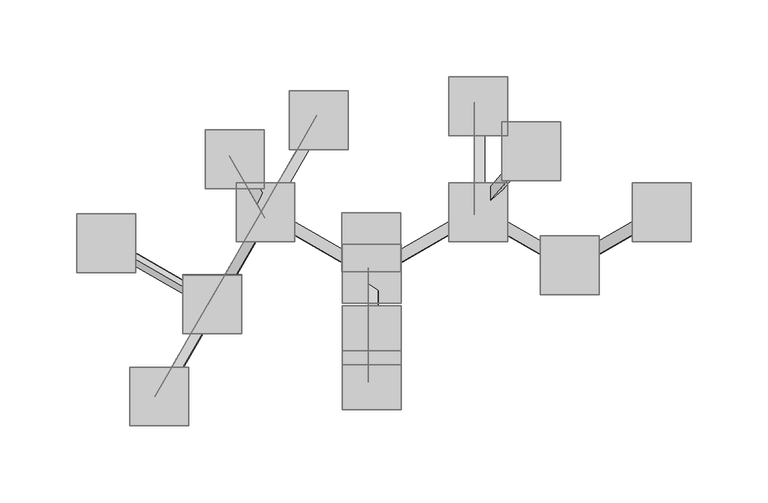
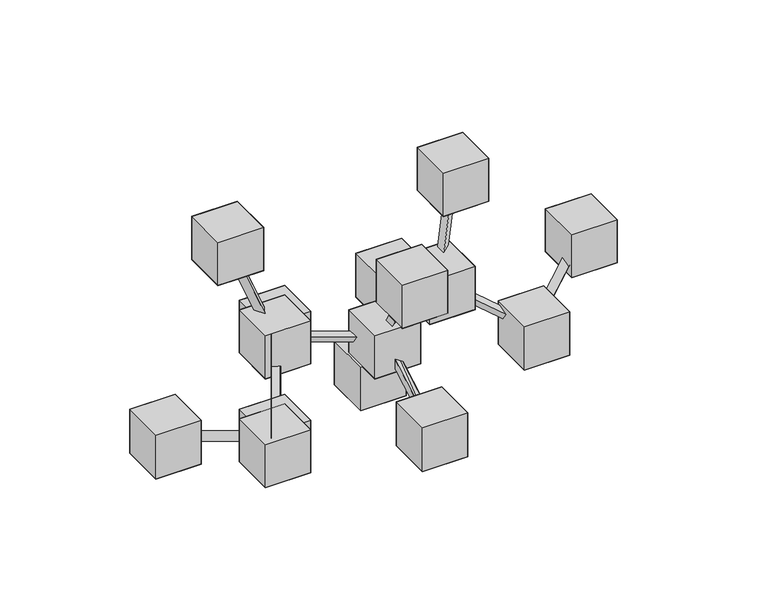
"""IFC4 building model written with IfcOpenShell, lengths in millimetres: geographic element geometry, Enscape AssetDefinition - Decorative Goods 023 Molecular Model : Enscape AssetDefinition - Decorative Goods 023 Molecular Model."""

from ifc_helpers import new_model, si_unit, origin, place, context, project, spatial, triangles, source, transform, mapped, element, save


def geographic_element_7906075b(model_context):
    return source(origin(), model_context, "Body", "Tessellation", [
        triangles([(54.2059982, 38.7270012, 79.2090006), (54.2059982, 0.309, 40.7910013), (54.2059982, 38.7270012, 40.7910013), (54.2059982, 0.309, 79.2090006), (92.6239975, 38.7270012, 79.2090006), (92.6239975, 38.7270012, 40.7910013), (92.6239975, 0.309, 40.7910013), (92.6239975, 0.309, 79.2090006), (190.1760009, 22.9079994, 61.623001), (135.0479977, -13.4199998, 15.7769996), (134.074002, -18.4830004, 21.6230011), (195.0479964, 21.2209998, 55.7770006), (194.0740006, 16.1579992, 61.623001), (130.1759932, -11.7330002, 21.6230011), (5.93, -16.6240001, 62.2499976), (3.9809999, -19.9989996, 55.5000008), (-65.3010014, 20.0010003, 55.5000008), (-67.249002, 16.6260007, 62.2499976), (-63.3520015, 23.3759987, 62.2499976), (2.0330001, -23.3740002, 62.2499976), (71.3149966, 23.3759987, 62.2499976), (73.2629972, 20.0010003, 55.5000008), (2.0330001, -16.6240001, 62.2499976), (5.93, -23.3740002, 62.2499976), (75.2120016, 16.6260007, 62.2499976), (131.1350008, -13.4110001, 15.7869997), (71.2990001, 21.1349995, 56.1139986), (76.1940047, 22.8090002, 61.9429987), (72.2969997, 16.059, 61.9429987), (132.1330049, -18.4870007, 21.6170013), (136.0300054, -11.7370005, 21.6170013), (1.731, -56.624001, 131.2309978), (8.4809997, -19.9989996, 59.9999986), (1.731, -91.2299965, 23.3750017), (8.4809997, -89.2809966, 19.9999988), (1.731, -18.0499997, 56.6250003), (1.731, -16.6240001, 61.9489985), (8.4809997, -59.9989994, 129.2819979), (1.731, -63.3739978, 127.3329981), (1.731, -23.3740002, 58.0510033), (1.731, -87.3320058, 16.6250004), (1.731, -21.9470002, 63.3750016), (-68.9370031, 21.799001, 58.0510033), (-61.4040009, 22.2510015, 59.9999986), (-81.4039974, 56.8919989, 129.2819979), (-85.5620012, 50.5940003, 131.2309978), (-88.9369951, 56.4400006, 127.3329981), (-65.5620002, 15.9530006, 61.9489985), (-68.223997, 19.4390001, 63.3750016), (-102.8650058, -40.5610008, 23.3750017), (-66.2750017, 22.8140008, 56.6250003), (-61.4040009, 17.7510013, 59.9999986), (-33.5829996, 79.4390011, 16.6250004), (-66.2750017, 22.8140008, 63.3750016), (-100.9159968, -37.1860001, 16.6250004), (-100.9159968, -37.1860001, 23.3750017), (-130.6860002, -102.2490005, 59.9999986), (-96.0450005, -42.2490018, 19.9999988), (-102.8650058, -40.5610008, 16.6250004), (-137.5059963, -100.5610039, 56.6250003), (-135.5569965, -97.186001, 63.3750016), (-26.762999, 77.7510045, 19.9999988), (-31.6339998, 82.814004, 23.3750017), (-68.223997, 19.4390001, 56.6250003), (-167.2750005, 3.3760002, 17.750001), (-99.942001, -39.9990029, 24.4999989), (-171.172001, -3.374, 17.750001), (-97.9930012, -36.624, 17.750001), (-169.2239913, 0.001, 24.4999989), (-101.8900017, -43.3739968, 17.750001), (71.0130028, 87.3349944, 16.6250004), (77.7629951, 20.0010003, 59.9999986), (71.0130028, 21.9500001, 63.3750016), (77.7629951, 89.282995, 19.9999988), (71.0130028, 18.0520004, 56.6250003), (71.0130028, 91.232004, 23.3750017), (104.9810012, 63.3760008, 119.4370048), (77.1599977, 20.0010003, 57.7499997), (72.2889969, 16.6260007, 62.812), (70.3400016, 23.3759987, 59.436997), (106.9300011, 56.6259995, 122.8119986), (111.8009974, 60.0010024, 117.7499984), (-15.3420005, -19.2089997, 0.0), (23.0770003, -19.2089997, 0.0), (-15.3420005, -19.2089997, 38.8739989), (-15.3420005, 19.2089997, 38.8739989), (23.0770003, 19.2089997, 38.8739989), (-15.3420005, 19.2089997, 0.0), (23.0770003, 19.2089997, 0.0), (23.0770003, -19.2089997, 38.8739989), (-15.076, -108.9729996, 0.0), (23.3420005, -108.9729996, 0.0), (-15.076, -108.9729996, 39.209003), (-15.076, -70.5550003, 39.209003), (-15.076, -70.5550003, 0.0), (23.3420005, -70.5550003, 0.0), (23.3420005, -108.9729996, 39.209003), (23.3420005, -70.5550003, 39.209003), (-153.6400043, -119.6909954, 40.7910013), (-153.6400043, -81.2730007, 79.2090006), (-115.2220004, -119.6909954, 40.7910013), (-153.6400043, -119.6909954, 79.2090006), (-115.2220004, -119.6909954, 79.2090006), (-153.6400043, -81.2730007, 40.7910013), (-115.2220004, -81.2730007, 40.7910013), (-115.2220004, -81.2730007, 79.2090006), (-188.2810039, -19.6909992, 39.209003), (-188.2810039, 18.7279993, 39.209003), (-188.2810039, -19.6909992, 0.0), (-149.8630091, 18.7279993, 39.209003), (-188.2810039, 18.7279993, 0.0), (-149.8630091, 18.7279993, 0.0), (-149.8630091, -19.6909992, 0.0), (-149.8630091, -19.6909992, 39.209003), (-118.9989955, -59.6910013, 0.0), (-118.9989955, -21.2729998, 39.209003), (-118.9989955, -59.6910013, 39.209003), (-118.9989955, -21.2729998, 0.0), (-80.5810008, -59.6910013, 0.0), (-80.5810008, -59.6910013, 39.209003), (-80.5810008, -21.2729998, 0.0), (-80.5810008, -21.2729998, 39.209003), (-104.3580015, 34.9499992, 110.072996), (-65.9400022, 34.9499992, 110.072996), (-104.3580015, 73.3679963, 148.4909908), (-104.3580015, 34.9499992, 148.4909908), (-104.3580015, 73.3679963, 110.072996), (-65.9400022, 73.3679963, 148.4909908), (-65.9400022, 34.9499992, 148.4909908), (-65.9400022, 73.3679963, 110.072996), (-84.3579959, 0.309, 40.7910013), (-45.9400011, 0.309, 40.7910013), (-45.9400011, 0.309, 79.2090006), (-84.3579959, 38.7270012, 79.2090006), (-84.3579959, 0.309, 79.2090006), (-45.9400011, 38.7270012, 79.2090006), (-84.3579959, 38.7270012, 40.7910013), (-45.9400011, 38.7270012, 40.7910013), (-49.7170008, 60.3090005, 0.0), (-49.7170008, 98.7280035, 39.209003), (-11.2990003, 98.7280035, 39.209003), (-49.7170008, 60.3090005, 39.209003), (-11.2990003, 98.7280035, 0.0), (-49.7170008, 98.7280035, 0.0), (-11.2990003, 60.3090005, 0.0), (-11.2990003, 60.3090005, 39.209003), (-15.076, -79.6910024, 110.072996), (-15.076, -79.6910024, 148.4909908), (-15.076, -41.2730031, 110.072996), (-15.076, -41.2730031, 148.4909908), (23.3420005, -79.6910024, 148.4909908), (23.3420005, -79.6910024, 110.072996), (23.3420005, -41.2730031, 110.072996), (23.3420005, -41.2730031, 148.4909908), (-15.076, -1.273, 40.7910013), (-15.076, -39.6910003, 40.7910013), (-15.076, -39.6910003, 79.2090006), (-15.076, -1.273, 79.2090006), (23.3420005, -1.273, 79.2090006), (23.3420005, -1.273, 40.7910013), (23.3420005, -39.6910003, 40.7910013), (23.3420005, -39.6910003, 79.2090006), (88.8469933, 40.3089994, 139.2089992), (88.8469933, 78.7279979, 100.7909954), (127.2650062, 40.3089994, 100.7909954), (88.8469933, 40.3089994, 100.7909954), (88.8469933, 78.7279979, 139.2089992), (127.2650062, 78.7279979, 139.2089992), (127.2650062, 78.7279979, 100.7909954), (127.2650062, 40.3089994, 139.2089992), (54.2059982, 69.5910012, 39.209003), (54.2059982, 69.5910012, 0.0), (92.6239975, 69.5910012, 0.0), (54.2059982, 108.009005, 39.209003), (54.2059982, 108.009005, 0.0), (92.6239975, 108.009005, 0.0), (92.6239975, 69.5910012, 39.209003), (92.6239975, 108.009005, 39.209003), (174.041993, 38.821999, 78.883003), (174.041993, 0.404, 78.883003), (174.041993, 0.404, 40.4649992), (212.4599968, 0.404, 78.883003), (174.041993, 38.821999, 40.4649992), (212.4599968, 38.821999, 78.883003), (212.4599968, 0.404, 40.4649992), (212.4599968, 38.821999, 40.4649992), (114.0420034, 4.1809999, 38.8830009), (114.0420034, -34.237, 38.8830009), (114.0420034, -34.237, 0.0), (152.4599891, -34.237, 0.0), (152.4599891, 4.1809999, 38.8830009), (152.4599891, 4.1809999, 0.0), (114.0420034, 4.1809999, 0.0), (152.4599891, -34.237, 38.8830009)], [[192, 191, 194], [192, 194, 190], [193, 192, 190], [193, 191, 192], [193, 187, 191], [191, 188, 194], [191, 187, 188], [190, 194, 188], [193, 190, 189], [190, 188, 189], [189, 187, 193], [189, 188, 187], [186, 184, 182], [186, 182, 185], [183, 186, 185], [183, 184, 186], [183, 179, 184], [184, 180, 182], [184, 179, 180], [185, 182, 180], [183, 185, 181], [185, 180, 181], [181, 179, 183], [181, 180, 179], [176, 178, 177], [176, 177, 173], [175, 176, 173], [175, 178, 176], [175, 174, 178], [178, 171, 177], [178, 174, 171], [173, 177, 171], [175, 173, 172], [173, 171, 172], [172, 174, 175], [172, 171, 174], [169, 168, 170], [169, 170, 165], [164, 169, 165], [164, 168, 169], [164, 167, 168], [168, 163, 170], [168, 167, 163], [165, 170, 163], [164, 165, 166], [165, 163, 166], [166, 167, 164], [166, 163, 167], [160, 159, 162], [160, 162, 161], [155, 160, 161], [155, 159, 160], [155, 158, 159], [159, 157, 162], [159, 158, 157], [161, 162, 157], [155, 161, 156], [161, 157, 156], [156, 158, 155], [156, 157, 158], [153, 154, 151], [153, 151, 152], [149, 153, 152], [149, 154, 153], [149, 150, 154], [154, 148, 151], [154, 150, 148], [152, 151, 148], [149, 152, 147], [152, 148, 147], [147, 150, 149], [147, 148, 150], [143, 141, 146], [143, 146, 145], [144, 143, 145], [144, 141, 143], [144, 140, 141], [141, 142, 146], [141, 140, 142], [145, 146, 142], [144, 145, 139], [145, 142, 139], [139, 140, 144], [139, 142, 140], [138, 136, 133], [138, 133, 132], [137, 138, 132], [137, 136, 138], [137, 134, 136], [136, 135, 133], [136, 134, 135], [132, 133, 135], [137, 132, 131], [132, 135, 131], [131, 134, 137], [131, 135, 134], [130, 128, 129], [130, 129, 124], [127, 130, 124], [127, 128, 130], [127, 125, 128], [128, 126, 129], [128, 125, 126], [124, 129, 126], [127, 124, 123], [124, 126, 123], [123, 125, 127], [123, 126, 125], [121, 122, 120], [121, 120, 119], [118, 121, 119], [118, 122, 121], [118, 116, 122], [122, 117, 120], [122, 116, 117], [119, 120, 117], [118, 119, 115], [119, 117, 115], [115, 116, 118], [115, 117, 116], [112, 110, 114], [112, 114, 113], [111, 112, 113], [111, 110, 112], [111, 108, 110], [110, 107, 114], [110, 108, 107], [113, 114, 107], [111, 113, 109], [113, 107, 109], [109, 108, 111], [109, 107, 108], [105, 106, 103], [105, 103, 101], [104, 105, 101], [104, 106, 105], [104, 100, 106], [106, 102, 103], [106, 100, 102], [101, 103, 102], [104, 101, 99], [101, 102, 99], [99, 100, 104], [99, 102, 100], [96, 98, 97], [96, 97, 92], [95, 96, 92], [95, 98, 96], [95, 94, 98], [98, 93, 97], [98, 94, 93], [92, 97, 93], [95, 92, 91], [92, 93, 91], [91, 94, 95], [91, 93, 94], [89, 87, 90], [89, 90, 84], [88, 89, 84], [88, 87, 89], [88, 86, 87], [87, 85, 90], [87, 86, 85], [84, 90, 85], [88, 84, 83], [84, 85, 83], [83, 86, 88], [83, 85, 86], [82, 81, 79], [81, 77, 80], [80, 79, 81], [79, 78, 82], [77, 82, 78], [78, 80, 77], [74, 76, 73], [76, 71, 75], [75, 73, 76], [73, 72, 74], [71, 74, 72], [72, 75, 71], [69, 67, 70], [67, 65, 68], [68, 70, 67], [70, 66, 69], [65, 69, 66], [66, 68, 65], [63, 53, 64], [64, 54, 63], [62, 63, 54], [57, 60, 59], [60, 61, 56], [56, 59, 60], [59, 58, 57], [61, 57, 58], [58, 56, 61], [58, 55, 51], [55, 50, 49], [49, 51, 55], [54, 52, 62], [53, 62, 52], [52, 64, 53], [51, 52, 58], [50, 58, 52], [52, 49, 50], [45, 46, 48], [46, 47, 43], [43, 48, 46], [48, 44, 45], [47, 45, 44], [44, 43, 47], [41, 34, 42], [42, 36, 41], [35, 41, 36], [38, 39, 40], [39, 32, 37], [37, 40, 39], [36, 33, 35], [34, 35, 33], [33, 42, 34], [40, 33, 38], [32, 38, 33], [33, 37, 32], [26, 30, 29], [30, 31, 28], [28, 29, 30], [29, 27, 26], [31, 26, 27], [27, 28, 31], [22, 25, 24], [25, 21, 23], [23, 24, 25], [24, 16, 22], [21, 22, 16], [16, 23, 21], [16, 20, 18], [20, 15, 19], [19, 18, 20], [18, 17, 16], [15, 16, 17], [17, 19, 15], [12, 13, 11], [13, 9, 14], [14, 11, 13], [11, 10, 12], [9, 12, 10], [10, 14, 9], [6, 5, 8], [6, 8, 7], [3, 6, 7], [3, 5, 6], [3, 1, 5], [5, 4, 8], [5, 1, 4], [7, 8, 4], [3, 7, 2], [7, 4, 2], [2, 1, 3], [2, 4, 1]], closed=False),
    ])


if __name__ == "__main__":
    model = new_model("IFC4")
    model_context = context("Model", 3, world=origin())
    ifc_project = project(units=[si_unit("LENGTHUNIT", "METRE", prefix="MILLI")], contexts=[model_context])
    site = spatial("IfcSite", under=ifc_project)
    building = spatial("IfcBuilding", under=site)
    placement = place(None, origin())
    geographic_element_shape = geographic_element_7906075b(model_context)
    element("IfcGeographicElement", 1, ObjectType="Enscape AssetDefinition - Decorative Goods 023 Molecular Model : Enscape AssetDefinition - Decorative Goods 023 Molecular Model", at=placement, inside=building, context=model_context, shape_type="MappedRepresentation", body=[
        mapped(geographic_element_shape, transform((0.0, 0.0, 0.0), x_axis=(1.0, 0.0, 0.0), y_axis=(0.0, 1.0, 0.0), z_axis=(0.0, 0.0, 1.0))),
    ])
    save(model, "model.ifc")
